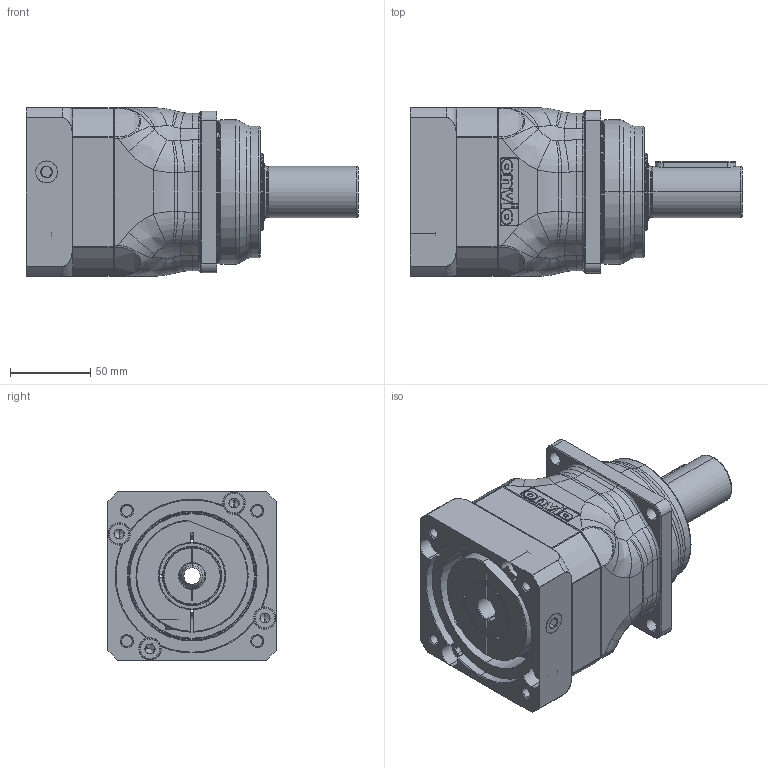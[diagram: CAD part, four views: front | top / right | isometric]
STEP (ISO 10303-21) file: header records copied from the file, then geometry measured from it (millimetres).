
FILE_DESCRIPTION (( 'STEP AP214' ), '1' );
FILE_NAME ('AH-030-0RR-FFF-MMM-S-LL-XXX-AXX-0000.STEP', '2019-10-11T20:28:14', ( '' ), ( '' ), 'SwSTEP 2.0', 'SolidWorks 2019', '' );
FILE_SCHEMA (( 'AUTOMOTIVE_DESIGN' ));
Length unit declared in the file: millimetre
Products named in the file (1): AH-030-0RR-FFF-MMM-S-LL-XXX-AXX-0000
Bounding box: 207 x 105.08 x 105 mm (x, y, z)
Surface area: 118835.3 mm2 (no closed solid volume)
Topology: 0 solids, 81 shells, 890 faces, 3631 edges, 2769 vertices
Faces by surface type: cylinder 281, plane 235, torus 173, cone 109, bspline 92
Entity records: 57910 total; most frequent: CARTESIAN_POINT 20089, DIRECTION 5432, ORIENTED_EDGE 5218, EDGE_CURVE 3617, VERTEX_POINT 2769, AXIS2_PLACEMENT_3D 1953, VECTOR 1526, LINE 1526
